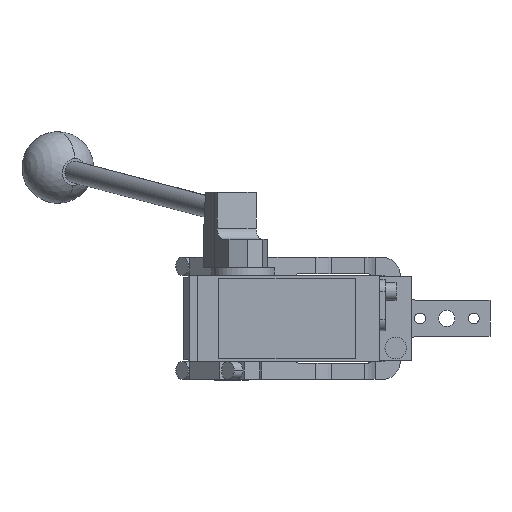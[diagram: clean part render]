
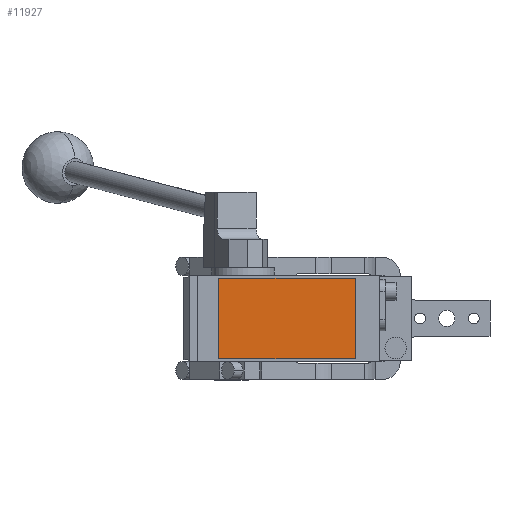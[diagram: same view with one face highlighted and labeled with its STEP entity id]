
A CAD part, front view. The second image highlights one B-rep face of the part: STEP entity #11927.
In plain terms, the highlighted planar face has unit normal (0, -1, 0).
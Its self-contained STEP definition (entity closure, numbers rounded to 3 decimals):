
#669 = DIRECTION ( 'NONE',  ( 0., 0., -1. ) ) ;
#808 = VERTEX_POINT ( 'NONE', #10868 ) ;
#1261 = VECTOR ( 'NONE', #4602, 1000. ) ;
#2566 = CARTESIAN_POINT ( 'NONE',  ( 69., -280.5, 22.5 ) ) ;
#2720 = VECTOR ( 'NONE', #669, 1000. ) ;
#3189 = LINE ( 'NONE', #8596, #2720 ) ;
#4345 = VERTEX_POINT ( 'NONE', #6579 ) ;
#4454 = CARTESIAN_POINT ( 'NONE',  ( -7., -280.5, 22.5 ) ) ;
#4566 = ORIENTED_EDGE ( 'NONE', *, *, #13017, .T. ) ;
#4602 = DIRECTION ( 'NONE',  ( -1., 0., 0. ) ) ;
#4653 = ORIENTED_EDGE ( 'NONE', *, *, #8781, .T. ) ;
#4669 = LINE ( 'NONE', #4454, #1261 ) ;
#5727 = EDGE_LOOP ( 'NONE', ( #9427, #4566, #9433, #4653 ) ) ;
#6105 = DIRECTION ( 'NONE',  ( 0., 0., 1. ) ) ;
#6579 = CARTESIAN_POINT ( 'NONE',  ( -7., -280.5, -22.5 ) ) ;
#6926 = CARTESIAN_POINT ( 'NONE',  ( -7., -280.5, -22.5 ) ) ;
#6946 = CARTESIAN_POINT ( 'NONE',  ( 0., -280.5, 0. ) ) ;
#7218 = VERTEX_POINT ( 'NONE', #7585 ) ;
#7585 = CARTESIAN_POINT ( 'NONE',  ( -7., -280.5, 22.5 ) ) ;
#7988 = PLANE ( 'NONE',  #14903 ) ;
#8596 = CARTESIAN_POINT ( 'NONE',  ( -7., -280.5, 22.5 ) ) ;
#8781 = EDGE_CURVE ( 'NONE', #10518, #7218, #4669, .T. ) ;
#8893 = EDGE_CURVE ( 'NONE', #808, #10518, #9728, .T. ) ;
#8994 = EDGE_CURVE ( 'NONE', #7218, #4345, #3189, .T. ) ;
#9021 = LINE ( 'NONE', #6926, #14814 ) ;
#9194 = VECTOR ( 'NONE', #6105, 1000. ) ;
#9427 = ORIENTED_EDGE ( 'NONE', *, *, #8994, .T. ) ;
#9433 = ORIENTED_EDGE ( 'NONE', *, *, #8893, .T. ) ;
#9728 = LINE ( 'NONE', #2566, #9194 ) ;
#10179 = DIRECTION ( 'NONE',  ( 0., 0., -1. ) ) ;
#10518 = VERTEX_POINT ( 'NONE', #14727 ) ;
#10868 = CARTESIAN_POINT ( 'NONE',  ( 69., -280.5, -22.5 ) ) ;
#11309 = FACE_OUTER_BOUND ( 'NONE', #5727, .T. ) ;
#11927 = ADVANCED_FACE ( 'NONE', ( #11309 ), #7988, .T. ) ;
#12560 = DIRECTION ( 'NONE',  ( 1., 0., 0. ) ) ;
#13017 = EDGE_CURVE ( 'NONE', #4345, #808, #9021, .T. ) ;
#13611 = DIRECTION ( 'NONE',  ( 0., -1., 0. ) ) ;
#14727 = CARTESIAN_POINT ( 'NONE',  ( 69., -280.5, 22.5 ) ) ;
#14814 = VECTOR ( 'NONE', #12560, 1000. ) ;
#14903 = AXIS2_PLACEMENT_3D ( 'NONE', #6946, #13611, #10179 ) ;
